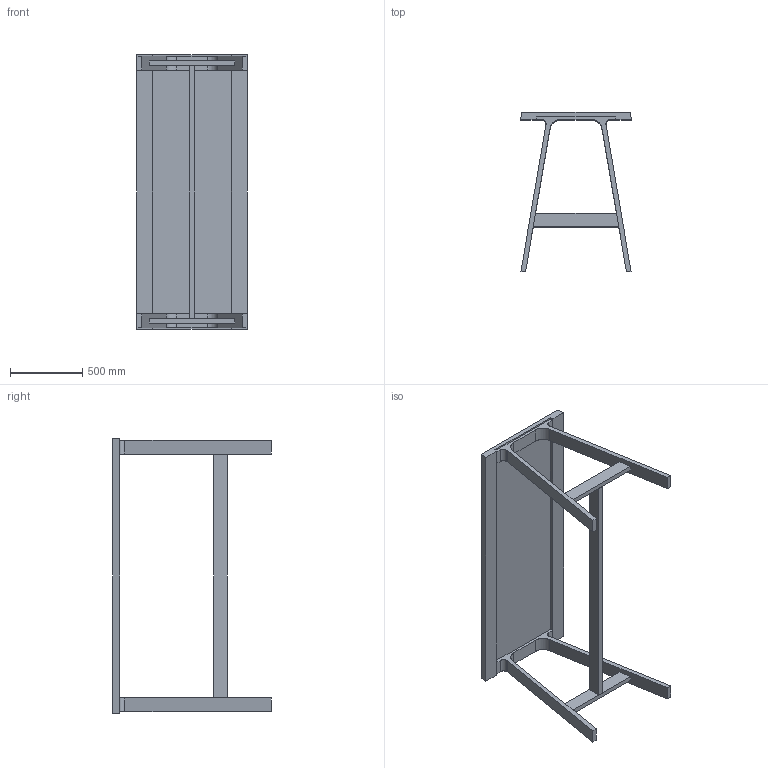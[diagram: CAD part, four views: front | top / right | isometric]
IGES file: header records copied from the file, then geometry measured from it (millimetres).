
Start section: SolidWorks IGES file using analytic representation for surfaces
Global section: file name: G:\Product Info\Doble\3D\igs\Doble bar 190x75x110.IGS; native system: SolidWorks 2013; preprocessor: SolidWorks 2013; author: remko; date: 131216.130408; units: millimetre
Bounding box: 767.63 x 1100 x 1900 mm (x, y, z)
Surface area: 5253411.6 mm2 (no closed solid volume)
Topology: 0 solids, 0 shells, 62 faces, 436 edges, 436 vertices
Faces by surface type: bspline 52, revolution 10
